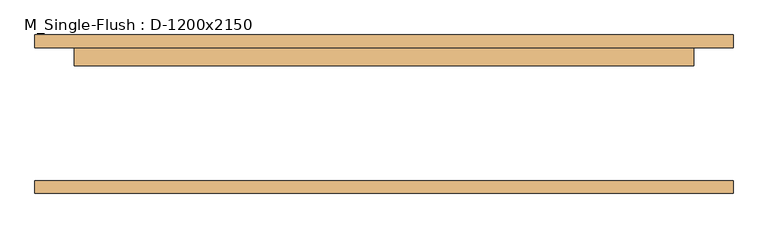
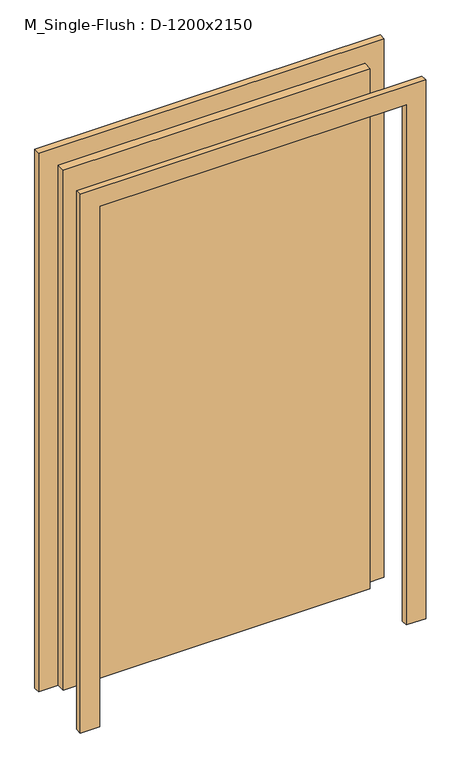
"""IFC4 building model written with IfcOpenShell, lengths in millimetres: door geometry, M_Single-Flush : D-1200x2150."""

from ifc_helpers import new_model, si_unit, frame, origin, origin_with_axes, place, context, project, spatial, polyline, outline, extrude, source, transform, mapped, element, save


def m_single_flush_d_1200x2150_ab82cfb8(model_context):
    return source(origin(), model_context, "Body", "SweptSolid", [
        extrude(outline(polyline([(2226.0, -676.0), (0.0, -676.0), (0.0, -600.0), (2150.0, -600.0), (2150.0, 600.0), (0.0, 600.0), (0.0, 676.0), (2226.0, 676.0), (2226.0, -676.0)])), frame((0.0, 128.5, 0.0), z_axis=(0.0, 1.0, 0.0), x_axis=(0.0, 0.0, 1.0)), (0.0, 0.0, 1.0), 25.0),
        extrude(outline(polyline([(2226.0, 676.0), (2226.0, -676.0), (0.0, -676.0), (0.0, -600.0), (2150.0, -600.0), (2150.0, 600.0), (0.0, 600.0), (0.0, 676.0), (2226.0, 676.0)])), frame((0.0, -153.5, 0.0), z_axis=(0.0, 1.0, 0.0), x_axis=(0.0, 0.0, 1.0)), (0.0, 0.0, 1.0), 25.0),
        extrude(outline(polyline([(600.0, 93.5), (-600.0, 93.5), (-600.0, 128.5), (600.0, 128.5), (600.0, 93.5)])), origin_with_axes(), (0.0, 0.0, 1.0), 2150.0),
    ])


if __name__ == "__main__":
    model = new_model("IFC4")
    model_context = context("Model", 3, world=origin())
    ifc_project = project(units=[si_unit("LENGTHUNIT", "METRE", prefix="MILLI")], contexts=[model_context])
    site = spatial("IfcSite", under=ifc_project)
    building = spatial("IfcBuilding", under=site)
    placement = place(None, origin())
    m_single_flush_d_1200x2150_shape = m_single_flush_d_1200x2150_ab82cfb8(model_context)
    element("IfcDoor", 1, ObjectType="M_Single-Flush : D-1200x2150", at=placement, inside=building, context=model_context, shape_type="MappedRepresentation", body=[
        mapped(m_single_flush_d_1200x2150_shape, transform((0.0, 0.0, 0.0), x_axis=(1.0, 0.0, 0.0), y_axis=(0.0, 1.0, 0.0), z_axis=(0.0, 0.0, 1.0))),
    ])
    save(model, "model.ifc")
